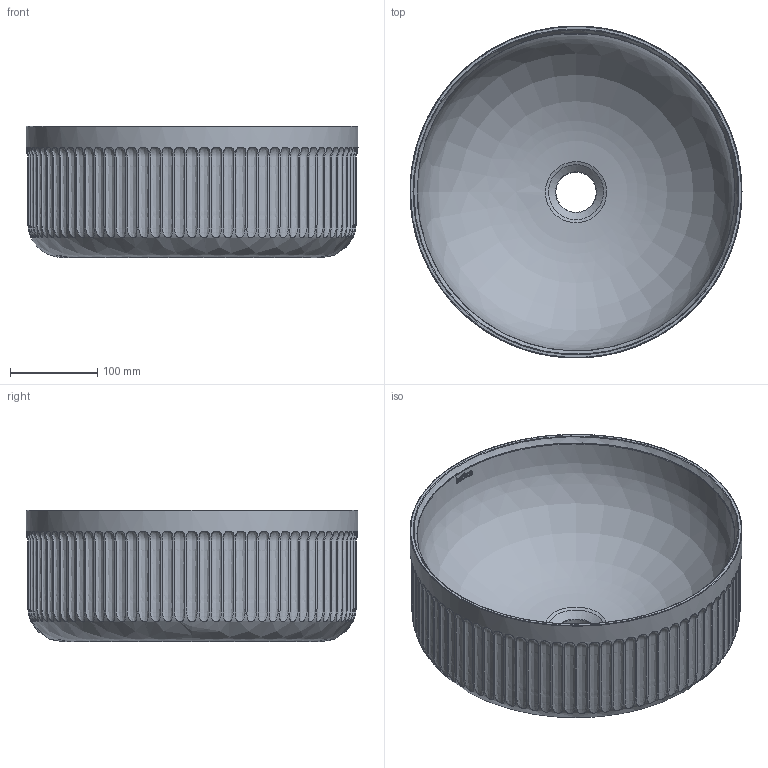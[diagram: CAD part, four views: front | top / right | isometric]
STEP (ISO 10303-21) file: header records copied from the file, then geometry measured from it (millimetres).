
FILE_DESCRIPTION(/* description */ (''),/* implementation_level */ '2;1');
FILE_NAME(/* name */ '0600_S~1',/* time_stamp */ '2023-11-13T16:28:23+01:00',/* author */ (''),/* organization */ (''),/* preprocessor_version */ 'ST-DEVELOPER v16.5',/* originating_system */ '',/* authorisation */ '');
FILE_SCHEMA (('CONFIG_CONTROL_DESIGN'));
Length unit declared in the file: millimetre
Products named in the file (1): Document
Bounding box: 380 x 380 x 150 mm (x, y, z)
Surface area: 510377.6 mm2
Topology: 6 solids, 7 shells, 362 faces, 1030 edges, 679 vertices
Faces by surface type: bspline 273, cylinder 86, plane 3
Full cylindrical faces by diameter (mm): 46 x1, 380 x1
Entity records: 61271 total; most frequent: CARTESIAN_POINT 55256, ORIENTED_EDGE 2057, EDGE_CURVE 1030, B_SPLINE_CURVE_WITH_KNOTS 710, VERTEX_POINT 679, EDGE_LOOP 368, ADVANCED_FACE 362, FACE_OUTER_BOUND 362
